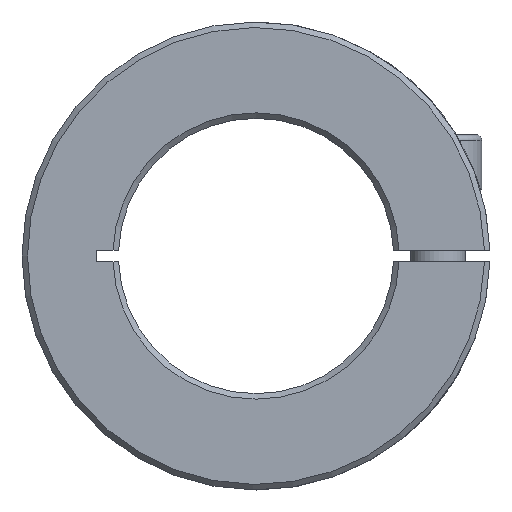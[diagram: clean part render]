
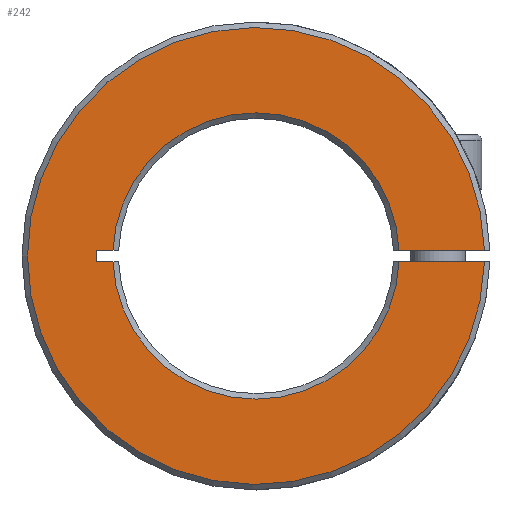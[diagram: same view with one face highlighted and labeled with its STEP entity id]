
A CAD part, front view. The second image highlights one B-rep face of the part: STEP entity #242.
In plain terms, the highlighted planar face has unit normal (0, -1, 0).
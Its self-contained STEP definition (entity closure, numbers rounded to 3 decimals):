
#242 = ADVANCED_FACE( '', ( #484 ), #485, .F. );
#484 = FACE_OUTER_BOUND( '', #732, .T. );
#485 = PLANE( '', #733 );
#732 = EDGE_LOOP( '', ( #1160, #1161, #1162, #1163, #1164, #1165, #1166, #1167 ) );
#733 = AXIS2_PLACEMENT_3D( '', #1168, #1169, #1170 );
#1160 = ORIENTED_EDGE( '', *, *, #1486, .T. );
#1161 = ORIENTED_EDGE( '', *, *, #1494, .T. );
#1162 = ORIENTED_EDGE( '', *, *, #1495, .T. );
#1163 = ORIENTED_EDGE( '', *, *, #1353, .T. );
#1164 = ORIENTED_EDGE( '', *, *, #1457, .F. );
#1165 = ORIENTED_EDGE( '', *, *, #1476, .T. );
#1166 = ORIENTED_EDGE( '', *, *, #1360, .F. );
#1167 = ORIENTED_EDGE( '', *, *, #1419, .F. );
#1168 = CARTESIAN_POINT( '', ( 0., -124., 0. ) );
#1169 = DIRECTION( '', ( 0., 1., 0. ) );
#1170 = DIRECTION( '', ( 0., 0., 1. ) );
#1353 = EDGE_CURVE( '', #1561, #1558, #1562, .F. );
#1360 = EDGE_CURVE( '', #1571, #1573, #1574, .T. );
#1419 = EDGE_CURVE( '', #1667, #1571, #1668, .T. );
#1457 = EDGE_CURVE( '', #1721, #1558, #1723, .T. );
#1476 = EDGE_CURVE( '', #1721, #1573, #1748, .T. );
#1486 = EDGE_CURVE( '', #1667, #1760, #1762, .T. );
#1494 = EDGE_CURVE( '', #1760, #1771, #1772, .T. );
#1495 = EDGE_CURVE( '', #1771, #1561, #1773, .T. );
#1558 = VERTEX_POINT( '', #1927 );
#1561 = VERTEX_POINT( '', #1933 );
#1562 = CIRCLE( '', #1934, 41.5 );
#1571 = VERTEX_POINT( '', #1950 );
#1573 = VERTEX_POINT( '', #1953 );
#1574 = LINE( '', #1954, #1955 );
#1667 = VERTEX_POINT( '', #2396 );
#1668 = LINE( '', #2397, #2398 );
#1721 = VERTEX_POINT( '', #2696 );
#1723 = LINE( '', #2701, #2702 );
#1748 = CIRCLE( '', #2738, 26. );
#1760 = VERTEX_POINT( '', #2757 );
#1762 = LINE( '', #2762, #2763 );
#1771 = VERTEX_POINT( '', #2773 );
#1772 = CIRCLE( '', #2774, 26. );
#1773 = LINE( '', #2775, #2776 );
#1927 = CARTESIAN_POINT( '', ( 41.488, -124., -1. ) );
#1933 = CARTESIAN_POINT( '', ( 41.488, -124., 1. ) );
#1934 = AXIS2_PLACEMENT_3D( '', #2843, #2844, #2845 );
#1950 = CARTESIAN_POINT( '', ( -28.999, -124., -1. ) );
#1953 = CARTESIAN_POINT( '', ( -25.981, -124., -1. ) );
#1954 = CARTESIAN_POINT( '', ( 0., -124., -1. ) );
#1955 = VECTOR( '', #2851, 1000. );
#2396 = CARTESIAN_POINT( '', ( -28.999, -124., 1. ) );
#2397 = CARTESIAN_POINT( '', ( -28.999, -124., 0. ) );
#2398 = VECTOR( '', #2916, 1000. );
#2696 = CARTESIAN_POINT( '', ( 25.981, -124., -1. ) );
#2701 = CARTESIAN_POINT( '', ( 0., -124., -1. ) );
#2702 = VECTOR( '', #2960, 1000. );
#2738 = AXIS2_PLACEMENT_3D( '', #2989, #2990, #2991 );
#2757 = CARTESIAN_POINT( '', ( -25.981, -124., 1. ) );
#2762 = CARTESIAN_POINT( '', ( 0., -124., 1. ) );
#2763 = VECTOR( '', #2996, 1000. );
#2773 = CARTESIAN_POINT( '', ( 25.981, -124., 1. ) );
#2774 = AXIS2_PLACEMENT_3D( '', #3004, #3005, #3006 );
#2775 = CARTESIAN_POINT( '', ( 0., -124., 1. ) );
#2776 = VECTOR( '', #3007, 1000. );
#2843 = CARTESIAN_POINT( '', ( 0., -124., 0. ) );
#2844 = DIRECTION( '', ( 0., 1., 0. ) );
#2845 = DIRECTION( '', ( 0., 0., 1. ) );
#2851 = DIRECTION( '', ( 1., 0., 0. ) );
#2916 = DIRECTION( '', ( 0., 0., -1. ) );
#2960 = DIRECTION( '', ( 1., 0., 0. ) );
#2989 = CARTESIAN_POINT( '', ( 0., -124., 0. ) );
#2990 = DIRECTION( '', ( 0., 1., 0. ) );
#2991 = DIRECTION( '', ( 0., 0., 1. ) );
#2996 = DIRECTION( '', ( 1., 0., 0. ) );
#3004 = CARTESIAN_POINT( '', ( 0., -124., 0. ) );
#3005 = DIRECTION( '', ( 0., 1., 0. ) );
#3006 = DIRECTION( '', ( 0., 0., 1. ) );
#3007 = DIRECTION( '', ( 1., 0., 0. ) );
